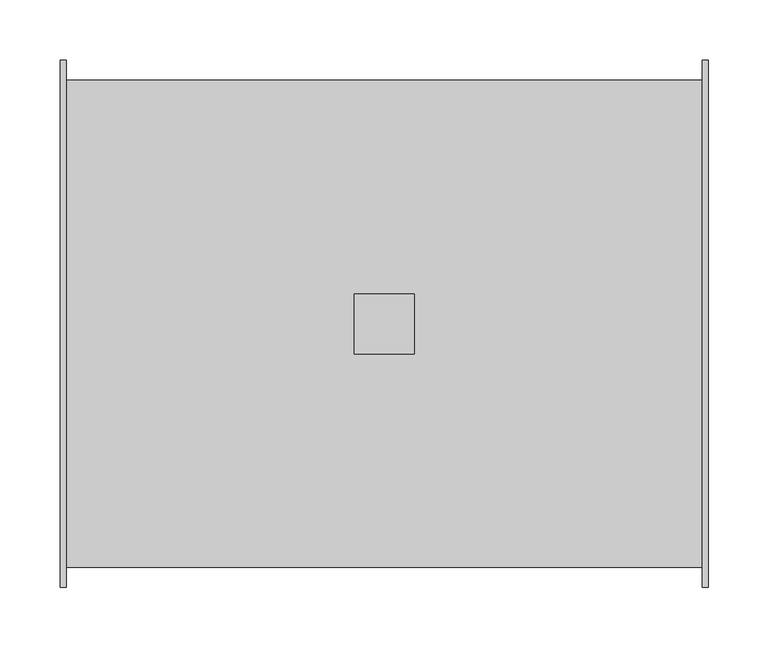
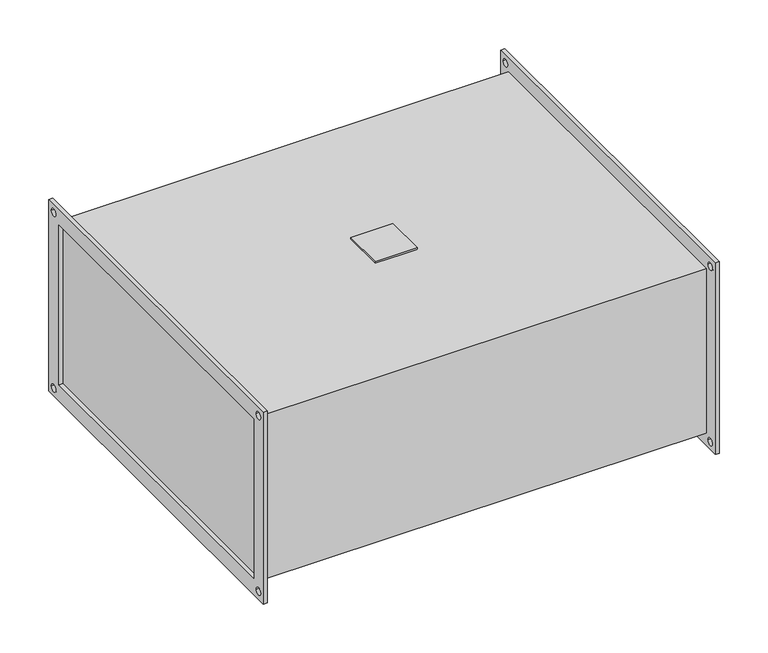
"""IFC4 building model written with IfcOpenShell, lengths in millimetres: damper geometry, KORF_Фильтр_Карманный_FKR : FKR 40-20  EU3."""

from ifc_helpers import new_model, si_unit, point, frame, frame_2d, origin, place, context, project, spatial, polyline, circle_curve, trimmed, segment, composite_curve, outline, extrude, source, transform, mapped, element, save


def damper_e6b95275(model_context):
    return source(origin(), model_context, "Body", "SweptSolid", [
        extrude(outline(polyline([(245.0, -25.0), (245.0, 25.0), (295.0, 25.0), (295.0, -25.0), (245.0, -25.0)])), frame((0.0, 0.0, 103.0), z_axis=(0.0, 0.0, 1.0), x_axis=(1.0, 0.0, 0.0)), (0.0, 0.0, 1.0), 2.0),
        extrude(outline(polyline([(-220.0, 120.0), (220.0, 120.0), (220.0, -120.0), (-220.0, -120.0), (-220.0, 120.0)]), holes=[polyline([(-200.0, 100.0), (-200.0, -100.0), (200.0, -100.0), (200.0, 100.0), (-200.0, 100.0)]), composite_curve([segment(trimmed(circle_curve(frame_2d((210.0, 110.0)), 4.5), [point((205.5, 110.0))], [point((214.5, 110.0))], True, "CARTESIAN"), True, "CONTINUOUS"), segment(trimmed(circle_curve(frame_2d((210.0, 110.0)), 4.5), [point((214.5, 110.0))], [point((205.5, 110.0))], True, "CARTESIAN"), True, "CONTINUOUS")], self_intersect=False), composite_curve([segment(trimmed(circle_curve(frame_2d((-210.0, 110.0)), 4.5), [point((-214.5, 110.0))], [point((-205.5, 110.0))], True, "CARTESIAN"), True, "CONTINUOUS"), segment(trimmed(circle_curve(frame_2d((-210.0, 110.0)), 4.5), [point((-205.5, 110.0))], [point((-214.5, 110.0))], True, "CARTESIAN"), True, "CONTINUOUS")], self_intersect=False), composite_curve([segment(trimmed(circle_curve(frame_2d((-210.0, -110.0)), 4.5), [point((-214.5, -110.0))], [point((-205.5, -110.0))], True, "CARTESIAN"), True, "CONTINUOUS"), segment(trimmed(circle_curve(frame_2d((-210.0, -110.0)), 4.5), [point((-205.5, -110.0))], [point((-214.5, -110.0))], True, "CARTESIAN"), True, "CONTINUOUS")], self_intersect=False), composite_curve([segment(trimmed(circle_curve(frame_2d((210.0, -110.0)), 4.5), [point((205.5, -110.0))], [point((214.5, -110.0))], True, "CARTESIAN"), True, "CONTINUOUS"), segment(trimmed(circle_curve(frame_2d((210.0, -110.0)), 4.5), [point((214.5, -110.0))], [point((205.5, -110.0))], True, "CARTESIAN"), True, "CONTINUOUS")], self_intersect=False)]), frame((535.0, 0.0, 0.0), z_axis=(1.0, 0.0, 0.0), x_axis=(0.0, 1.0, 0.0)), (0.0, 0.0, 1.0), 5.0),
        extrude(outline(polyline([(-220.0, 120.0), (220.0, 120.0), (220.0, -120.0), (-220.0, -120.0), (-220.0, 120.0)]), holes=[polyline([(-200.0, 100.0), (-200.0, -100.0), (200.0, -100.0), (200.0, 100.0), (-200.0, 100.0)]), composite_curve([segment(trimmed(circle_curve(frame_2d((210.0, 110.0)), 4.5), [point((205.5, 110.0))], [point((214.5, 110.0))], True, "CARTESIAN"), True, "CONTINUOUS"), segment(trimmed(circle_curve(frame_2d((210.0, 110.0)), 4.5), [point((214.5, 110.0))], [point((205.5, 110.0))], True, "CARTESIAN"), True, "CONTINUOUS")], self_intersect=False), composite_curve([segment(trimmed(circle_curve(frame_2d((-210.0, 110.0)), 4.5), [point((-214.5, 110.0))], [point((-205.5, 110.0))], True, "CARTESIAN"), True, "CONTINUOUS"), segment(trimmed(circle_curve(frame_2d((-210.0, 110.0)), 4.5), [point((-205.5, 110.0))], [point((-214.5, 110.0))], True, "CARTESIAN"), True, "CONTINUOUS")], self_intersect=False), composite_curve([segment(trimmed(circle_curve(frame_2d((-210.0, -110.0)), 4.5), [point((-214.5, -110.0))], [point((-205.5, -110.0))], True, "CARTESIAN"), True, "CONTINUOUS"), segment(trimmed(circle_curve(frame_2d((-210.0, -110.0)), 4.5), [point((-205.5, -110.0))], [point((-214.5, -110.0))], True, "CARTESIAN"), True, "CONTINUOUS")], self_intersect=False), composite_curve([segment(trimmed(circle_curve(frame_2d((210.0, -110.0)), 4.5), [point((205.5, -110.0))], [point((214.5, -110.0))], True, "CARTESIAN"), True, "CONTINUOUS"), segment(trimmed(circle_curve(frame_2d((210.0, -110.0)), 4.5), [point((214.5, -110.0))], [point((205.5, -110.0))], True, "CARTESIAN"), True, "CONTINUOUS")], self_intersect=False)]), frame((0.0, 0.0, 0.0), z_axis=(1.0, 0.0, 0.0), x_axis=(0.0, 1.0, 0.0)), (0.0, 0.0, 1.0), 5.0),
        extrude(outline(polyline([(535.0, 203.0), (535.0, -203.0), (5.0, -203.0), (5.0, 203.0), (535.0, 203.0)])), frame((0.0, 0.0, -103.0), z_axis=(0.0, 0.0, 1.0), x_axis=(1.0, 0.0, 0.0)), (0.0, 0.0, 1.0), 206.0),
    ])


if __name__ == "__main__":
    model = new_model("IFC4")
    model_context = context("Model", 3, world=origin())
    ifc_project = project(units=[si_unit("LENGTHUNIT", "METRE", prefix="MILLI")], contexts=[model_context])
    site = spatial("IfcSite", under=ifc_project)
    building = spatial("IfcBuilding", under=site)
    placement = place(None, origin())
    damper_shape = damper_e6b95275(model_context)
    element("IfcDamper", 1, ObjectType="KORF_Фильтр_Карманный_FKR : FKR 40-20  EU3", at=placement, inside=building, context=model_context, shape_type="MappedRepresentation", body=[
        mapped(damper_shape, transform((0.0, 0.0, 0.0), x_axis=(1.0, 0.0, 0.0), y_axis=(0.0, 1.0, 0.0), z_axis=(0.0, 0.0, 1.0))),
    ])
    save(model, "model.ifc")
